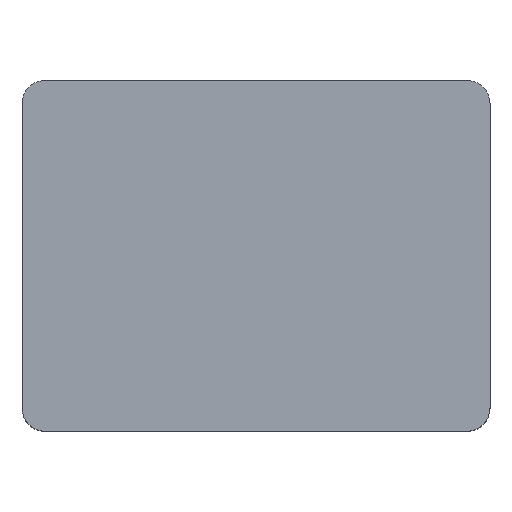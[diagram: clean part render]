
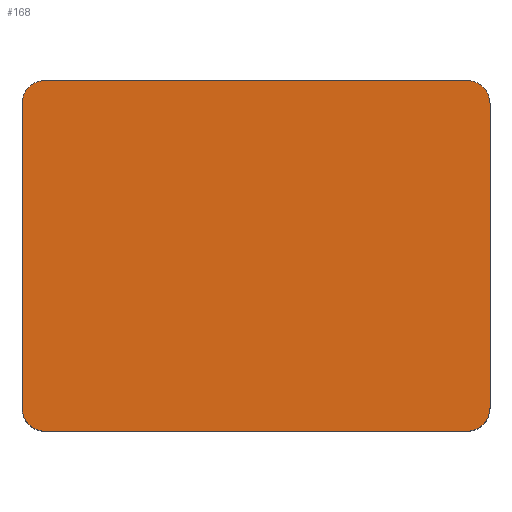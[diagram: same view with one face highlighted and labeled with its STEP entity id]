
A CAD part, top view. The second image highlights one B-rep face of the part: STEP entity #168.
In plain terms, the highlighted planar face has unit normal (0, 0, 1).
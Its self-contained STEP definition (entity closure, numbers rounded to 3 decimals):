
#21 = EDGE_CURVE('',#22,#24,#26,.T.);
#22 = VERTEX_POINT('',#23);
#23 = CARTESIAN_POINT('',(-20.,-13.,10.));
#24 = VERTEX_POINT('',#25);
#25 = CARTESIAN_POINT('',(-20.,13.,10.));
#26 = SURFACE_CURVE('',#27,(#31,#43),.PCURVE_S1.);
#27 = LINE('',#28,#29);
#28 = CARTESIAN_POINT('',(-20.,-15.,10.));
#29 = VECTOR('',#30,1.);
#30 = DIRECTION('',(0.,1.,0.));
#31 = PCURVE('',#32,#37);
#32 = PLANE('',#33);
#33 = AXIS2_PLACEMENT_3D('',#34,#35,#36);
#34 = CARTESIAN_POINT('',(-20.,-15.,-10.));
#35 = DIRECTION('',(1.,0.,0.));
#36 = DIRECTION('',(0.,0.,1.));
#37 = DEFINITIONAL_REPRESENTATION('',(#38),#42);
#38 = LINE('',#39,#40);
#39 = CARTESIAN_POINT('',(20.,0.));
#40 = VECTOR('',#41,1.);
#41 = DIRECTION('',(0.,-1.));
#42 = ( GEOMETRIC_REPRESENTATION_CONTEXT(2) 
PARAMETRIC_REPRESENTATION_CONTEXT() REPRESENTATION_CONTEXT('2D SPACE',''
  ) );
#43 = PCURVE('',#44,#49);
#44 = PLANE('',#45);
#45 = AXIS2_PLACEMENT_3D('',#46,#47,#48);
#46 = CARTESIAN_POINT('',(-20.,-15.,10.));
#47 = DIRECTION('',(0.,0.,1.));
#48 = DIRECTION('',(1.,0.,0.));
#49 = DEFINITIONAL_REPRESENTATION('',(#50),#54);
#50 = LINE('',#51,#52);
#51 = CARTESIAN_POINT('',(0.,0.));
#52 = VECTOR('',#53,1.);
#53 = DIRECTION('',(0.,1.));
#54 = ( GEOMETRIC_REPRESENTATION_CONTEXT(2) 
PARAMETRIC_REPRESENTATION_CONTEXT() REPRESENTATION_CONTEXT('2D SPACE',''
  ) );
#72 = CYLINDRICAL_SURFACE('',#73,2.);
#73 = AXIS2_PLACEMENT_3D('',#74,#75,#76);
#74 = CARTESIAN_POINT('',(-18.,-13.,-10.));
#75 = DIRECTION('',(0.,0.,1.));
#76 = DIRECTION('',(-1.,-0.,0.));
#126 = CYLINDRICAL_SURFACE('',#127,2.);
#127 = AXIS2_PLACEMENT_3D('',#128,#129,#130);
#128 = CARTESIAN_POINT('',(-18.,13.,-10.));
#129 = DIRECTION('',(0.,0.,1.));
#130 = DIRECTION('',(-1.,-0.,0.));
#168 = ADVANCED_FACE('',(#169),#44,.T.);
#169 = FACE_BOUND('',#170,.T.);
#170 = EDGE_LOOP('',(#171,#172,#196,#224,#257,#285,#314,#342));
#171 = ORIENTED_EDGE('',*,*,#21,.F.);
#172 = ORIENTED_EDGE('',*,*,#173,.T.);
#173 = EDGE_CURVE('',#22,#174,#176,.T.);
#174 = VERTEX_POINT('',#175);
#175 = CARTESIAN_POINT('',(-18.,-15.,10.));
#176 = SURFACE_CURVE('',#177,(#182,#189),.PCURVE_S1.);
#177 = CIRCLE('',#178,2.);
#178 = AXIS2_PLACEMENT_3D('',#179,#180,#181);
#179 = CARTESIAN_POINT('',(-18.,-13.,10.));
#180 = DIRECTION('',(0.,0.,1.));
#181 = DIRECTION('',(0.,-1.,0.));
#182 = PCURVE('',#44,#183);
#183 = DEFINITIONAL_REPRESENTATION('',(#184),#188);
#184 = CIRCLE('',#185,2.);
#185 = AXIS2_PLACEMENT_2D('',#186,#187);
#186 = CARTESIAN_POINT('',(2.,2.));
#187 = DIRECTION('',(0.,-1.));
#188 = ( GEOMETRIC_REPRESENTATION_CONTEXT(2) 
PARAMETRIC_REPRESENTATION_CONTEXT() REPRESENTATION_CONTEXT('2D SPACE',''
  ) );
#189 = PCURVE('',#72,#190);
#190 = DEFINITIONAL_REPRESENTATION('',(#191),#195);
#191 = LINE('',#192,#193);
#192 = CARTESIAN_POINT('',(-4.712,20.));
#193 = VECTOR('',#194,1.);
#194 = DIRECTION('',(1.,0.));
#195 = ( GEOMETRIC_REPRESENTATION_CONTEXT(2) 
PARAMETRIC_REPRESENTATION_CONTEXT() REPRESENTATION_CONTEXT('2D SPACE',''
  ) );
#196 = ORIENTED_EDGE('',*,*,#197,.T.);
#197 = EDGE_CURVE('',#174,#198,#200,.T.);
#198 = VERTEX_POINT('',#199);
#199 = CARTESIAN_POINT('',(18.,-15.,10.));
#200 = SURFACE_CURVE('',#201,(#205,#212),.PCURVE_S1.);
#201 = LINE('',#202,#203);
#202 = CARTESIAN_POINT('',(-20.,-15.,10.));
#203 = VECTOR('',#204,1.);
#204 = DIRECTION('',(1.,0.,0.));
#205 = PCURVE('',#44,#206);
#206 = DEFINITIONAL_REPRESENTATION('',(#207),#211);
#207 = LINE('',#208,#209);
#208 = CARTESIAN_POINT('',(0.,0.));
#209 = VECTOR('',#210,1.);
#210 = DIRECTION('',(1.,0.));
#211 = ( GEOMETRIC_REPRESENTATION_CONTEXT(2) 
PARAMETRIC_REPRESENTATION_CONTEXT() REPRESENTATION_CONTEXT('2D SPACE',''
  ) );
#212 = PCURVE('',#213,#218);
#213 = PLANE('',#214);
#214 = AXIS2_PLACEMENT_3D('',#215,#216,#217);
#215 = CARTESIAN_POINT('',(-20.,-15.,-10.));
#216 = DIRECTION('',(0.,1.,0.));
#217 = DIRECTION('',(0.,0.,1.));
#218 = DEFINITIONAL_REPRESENTATION('',(#219),#223);
#219 = LINE('',#220,#221);
#220 = CARTESIAN_POINT('',(20.,0.));
#221 = VECTOR('',#222,1.);
#222 = DIRECTION('',(0.,1.));
#223 = ( GEOMETRIC_REPRESENTATION_CONTEXT(2) 
PARAMETRIC_REPRESENTATION_CONTEXT() REPRESENTATION_CONTEXT('2D SPACE',''
  ) );
#224 = ORIENTED_EDGE('',*,*,#225,.F.);
#225 = EDGE_CURVE('',#226,#198,#228,.T.);
#226 = VERTEX_POINT('',#227);
#227 = CARTESIAN_POINT('',(20.,-13.,10.));
#228 = SURFACE_CURVE('',#229,(#234,#245),.PCURVE_S1.);
#229 = CIRCLE('',#230,2.);
#230 = AXIS2_PLACEMENT_3D('',#231,#232,#233);
#231 = CARTESIAN_POINT('',(18.,-13.,10.));
#232 = DIRECTION('',(-0.,-0.,-1.));
#233 = DIRECTION('',(0.,-1.,0.));
#234 = PCURVE('',#44,#235);
#235 = DEFINITIONAL_REPRESENTATION('',(#236),#244);
#236 = ( BOUNDED_CURVE() B_SPLINE_CURVE(2,(#237,#238,#239,#240,#241,#242
,#243),.UNSPECIFIED.,.T.,.F.) B_SPLINE_CURVE_WITH_KNOTS((1,2,2,2,2,1),(
    -2.094,0.,2.094,4.189,6.283,
8.378),.UNSPECIFIED.) CURVE() GEOMETRIC_REPRESENTATION_ITEM() 
RATIONAL_B_SPLINE_CURVE((1.,0.5,1.,0.5,1.,0.5,1.)) REPRESENTATION_ITEM(
  '') );
#237 = CARTESIAN_POINT('',(38.,0.));
#238 = CARTESIAN_POINT('',(34.536,0.));
#239 = CARTESIAN_POINT('',(36.268,3.));
#240 = CARTESIAN_POINT('',(38.,6.));
#241 = CARTESIAN_POINT('',(39.732,3.));
#242 = CARTESIAN_POINT('',(41.464,0.));
#243 = CARTESIAN_POINT('',(38.,0.));
#244 = ( GEOMETRIC_REPRESENTATION_CONTEXT(2) 
PARAMETRIC_REPRESENTATION_CONTEXT() REPRESENTATION_CONTEXT('2D SPACE',''
  ) );
#245 = PCURVE('',#246,#251);
#246 = CYLINDRICAL_SURFACE('',#247,2.);
#247 = AXIS2_PLACEMENT_3D('',#248,#249,#250);
#248 = CARTESIAN_POINT('',(18.,-13.,-10.));
#249 = DIRECTION('',(0.,0.,1.));
#250 = DIRECTION('',(1.,0.,-0.));
#251 = DEFINITIONAL_REPRESENTATION('',(#252),#256);
#252 = LINE('',#253,#254);
#253 = CARTESIAN_POINT('',(4.712,20.));
#254 = VECTOR('',#255,1.);
#255 = DIRECTION('',(-1.,0.));
#256 = ( GEOMETRIC_REPRESENTATION_CONTEXT(2) 
PARAMETRIC_REPRESENTATION_CONTEXT() REPRESENTATION_CONTEXT('2D SPACE',''
  ) );
#257 = ORIENTED_EDGE('',*,*,#258,.T.);
#258 = EDGE_CURVE('',#226,#259,#261,.T.);
#259 = VERTEX_POINT('',#260);
#260 = CARTESIAN_POINT('',(20.,13.,10.));
#261 = SURFACE_CURVE('',#262,(#266,#273),.PCURVE_S1.);
#262 = LINE('',#263,#264);
#263 = CARTESIAN_POINT('',(20.,-15.,10.));
#264 = VECTOR('',#265,1.);
#265 = DIRECTION('',(0.,1.,0.));
#266 = PCURVE('',#44,#267);
#267 = DEFINITIONAL_REPRESENTATION('',(#268),#272);
#268 = LINE('',#269,#270);
#269 = CARTESIAN_POINT('',(40.,0.));
#270 = VECTOR('',#271,1.);
#271 = DIRECTION('',(0.,1.));
#272 = ( GEOMETRIC_REPRESENTATION_CONTEXT(2) 
PARAMETRIC_REPRESENTATION_CONTEXT() REPRESENTATION_CONTEXT('2D SPACE',''
  ) );
#273 = PCURVE('',#274,#279);
#274 = PLANE('',#275);
#275 = AXIS2_PLACEMENT_3D('',#276,#277,#278);
#276 = CARTESIAN_POINT('',(20.,-15.,-10.));
#277 = DIRECTION('',(1.,0.,0.));
#278 = DIRECTION('',(0.,0.,1.));
#279 = DEFINITIONAL_REPRESENTATION('',(#280),#284);
#280 = LINE('',#281,#282);
#281 = CARTESIAN_POINT('',(20.,0.));
#282 = VECTOR('',#283,1.);
#283 = DIRECTION('',(0.,-1.));
#284 = ( GEOMETRIC_REPRESENTATION_CONTEXT(2) 
PARAMETRIC_REPRESENTATION_CONTEXT() REPRESENTATION_CONTEXT('2D SPACE',''
  ) );
#285 = ORIENTED_EDGE('',*,*,#286,.T.);
#286 = EDGE_CURVE('',#259,#287,#289,.T.);
#287 = VERTEX_POINT('',#288);
#288 = CARTESIAN_POINT('',(18.,15.,10.));
#289 = SURFACE_CURVE('',#290,(#295,#302),.PCURVE_S1.);
#290 = CIRCLE('',#291,2.);
#291 = AXIS2_PLACEMENT_3D('',#292,#293,#294);
#292 = CARTESIAN_POINT('',(18.,13.,10.));
#293 = DIRECTION('',(0.,0.,1.));
#294 = DIRECTION('',(0.,-1.,0.));
#295 = PCURVE('',#44,#296);
#296 = DEFINITIONAL_REPRESENTATION('',(#297),#301);
#297 = CIRCLE('',#298,2.);
#298 = AXIS2_PLACEMENT_2D('',#299,#300);
#299 = CARTESIAN_POINT('',(38.,28.));
#300 = DIRECTION('',(0.,-1.));
#301 = ( GEOMETRIC_REPRESENTATION_CONTEXT(2) 
PARAMETRIC_REPRESENTATION_CONTEXT() REPRESENTATION_CONTEXT('2D SPACE',''
  ) );
#302 = PCURVE('',#303,#308);
#303 = CYLINDRICAL_SURFACE('',#304,2.);
#304 = AXIS2_PLACEMENT_3D('',#305,#306,#307);
#305 = CARTESIAN_POINT('',(18.,13.,-10.));
#306 = DIRECTION('',(0.,0.,1.));
#307 = DIRECTION('',(1.,0.,-0.));
#308 = DEFINITIONAL_REPRESENTATION('',(#309),#313);
#309 = LINE('',#310,#311);
#310 = CARTESIAN_POINT('',(-1.571,20.));
#311 = VECTOR('',#312,1.);
#312 = DIRECTION('',(1.,0.));
#313 = ( GEOMETRIC_REPRESENTATION_CONTEXT(2) 
PARAMETRIC_REPRESENTATION_CONTEXT() REPRESENTATION_CONTEXT('2D SPACE',''
  ) );
#314 = ORIENTED_EDGE('',*,*,#315,.F.);
#315 = EDGE_CURVE('',#316,#287,#318,.T.);
#316 = VERTEX_POINT('',#317);
#317 = CARTESIAN_POINT('',(-18.,15.,10.));
#318 = SURFACE_CURVE('',#319,(#323,#330),.PCURVE_S1.);
#319 = LINE('',#320,#321);
#320 = CARTESIAN_POINT('',(-20.,15.,10.));
#321 = VECTOR('',#322,1.);
#322 = DIRECTION('',(1.,0.,0.));
#323 = PCURVE('',#44,#324);
#324 = DEFINITIONAL_REPRESENTATION('',(#325),#329);
#325 = LINE('',#326,#327);
#326 = CARTESIAN_POINT('',(0.,30.));
#327 = VECTOR('',#328,1.);
#328 = DIRECTION('',(1.,0.));
#329 = ( GEOMETRIC_REPRESENTATION_CONTEXT(2) 
PARAMETRIC_REPRESENTATION_CONTEXT() REPRESENTATION_CONTEXT('2D SPACE',''
  ) );
#330 = PCURVE('',#331,#336);
#331 = PLANE('',#332);
#332 = AXIS2_PLACEMENT_3D('',#333,#334,#335);
#333 = CARTESIAN_POINT('',(-20.,15.,-10.));
#334 = DIRECTION('',(0.,1.,0.));
#335 = DIRECTION('',(0.,0.,1.));
#336 = DEFINITIONAL_REPRESENTATION('',(#337),#341);
#337 = LINE('',#338,#339);
#338 = CARTESIAN_POINT('',(20.,0.));
#339 = VECTOR('',#340,1.);
#340 = DIRECTION('',(0.,1.));
#341 = ( GEOMETRIC_REPRESENTATION_CONTEXT(2) 
PARAMETRIC_REPRESENTATION_CONTEXT() REPRESENTATION_CONTEXT('2D SPACE',''
  ) );
#342 = ORIENTED_EDGE('',*,*,#343,.F.);
#343 = EDGE_CURVE('',#24,#316,#344,.T.);
#344 = SURFACE_CURVE('',#345,(#350,#361),.PCURVE_S1.);
#345 = CIRCLE('',#346,2.);
#346 = AXIS2_PLACEMENT_3D('',#347,#348,#349);
#347 = CARTESIAN_POINT('',(-18.,13.,10.));
#348 = DIRECTION('',(-0.,-0.,-1.));
#349 = DIRECTION('',(0.,-1.,0.));
#350 = PCURVE('',#44,#351);
#351 = DEFINITIONAL_REPRESENTATION('',(#352),#360);
#352 = ( BOUNDED_CURVE() B_SPLINE_CURVE(2,(#353,#354,#355,#356,#357,#358
,#359),.UNSPECIFIED.,.T.,.F.) B_SPLINE_CURVE_WITH_KNOTS((1,2,2,2,2,1),(
    -2.094,0.,2.094,4.189,6.283,
8.378),.UNSPECIFIED.) CURVE() GEOMETRIC_REPRESENTATION_ITEM() 
RATIONAL_B_SPLINE_CURVE((1.,0.5,1.,0.5,1.,0.5,1.)) REPRESENTATION_ITEM(
  '') );
#353 = CARTESIAN_POINT('',(2.,26.));
#354 = CARTESIAN_POINT('',(-1.464,26.));
#355 = CARTESIAN_POINT('',(0.268,29.));
#356 = CARTESIAN_POINT('',(2.,32.));
#357 = CARTESIAN_POINT('',(3.732,29.));
#358 = CARTESIAN_POINT('',(5.464,26.));
#359 = CARTESIAN_POINT('',(2.,26.));
#360 = ( GEOMETRIC_REPRESENTATION_CONTEXT(2) 
PARAMETRIC_REPRESENTATION_CONTEXT() REPRESENTATION_CONTEXT('2D SPACE',''
  ) );
#361 = PCURVE('',#126,#362);
#362 = DEFINITIONAL_REPRESENTATION('',(#363),#367);
#363 = LINE('',#364,#365);
#364 = CARTESIAN_POINT('',(1.571,20.));
#365 = VECTOR('',#366,1.);
#366 = DIRECTION('',(-1.,0.));
#367 = ( GEOMETRIC_REPRESENTATION_CONTEXT(2) 
PARAMETRIC_REPRESENTATION_CONTEXT() REPRESENTATION_CONTEXT('2D SPACE',''
  ) );
